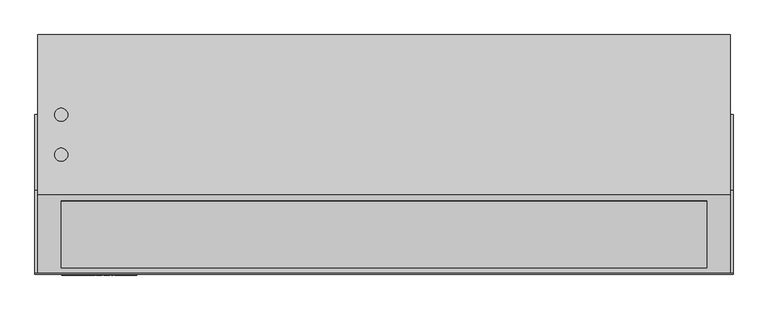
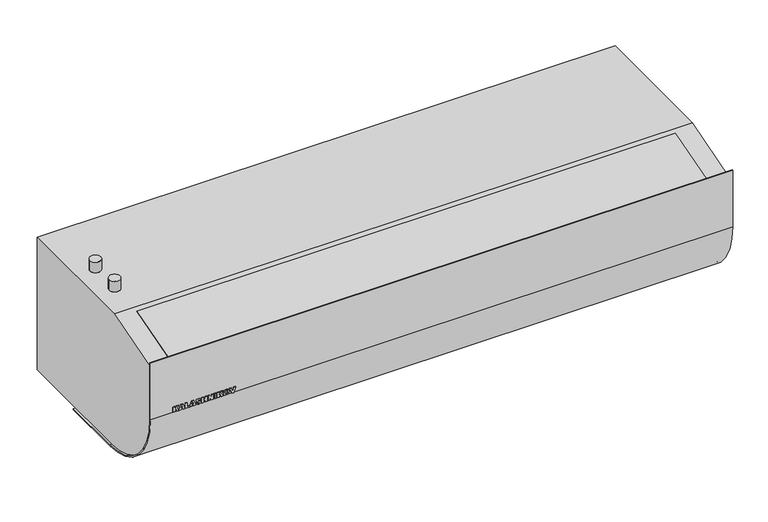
"""IFC4 building model written with IfcOpenShell, lengths in millimetres: proxy geometry, ADSK_Завеса_Водяная : KVC-C10W12-11."""

from ifc_helpers import new_model, si_unit, point, frame, frame_2d, origin, place, context, project, spatial, polyline, circle_curve, trimmed, segment, composite_curve, outline, extrude, source, transform, mapped, element, save
from ifc_brep_helpers import plane_surface, cylinder_surface, advanced_brep


def mechanical_equipment_7584899c(model_context):
    return source(origin(), model_context, "Body", "SolidModel", [
        extrude(outline(polyline([(139.0, -491.5196078), (129.0, -491.5196078), (129.0, -488.3823529), (130.7647059, -488.3823529), (132.7745098, -486.6115196), (129.0, -484.7794118), (129.0, -480.9313725), (135.2775735, -484.4056373), (139.0, -481.127451), (139.0, -485.3982843), (135.2224265, -488.3823529), (139.0, -488.3823529), (139.0, -491.5196078)])), frame((0.0, -367.0, 0.0), z_axis=(0.0, 1.0, 0.0), x_axis=(0.0, 0.0, 1.0)), (0.0, 0.0, 1.0), 1.0),
        extrude(outline(polyline([(130.5686275, -473.9338235), (129.0, -473.4803922), (129.0, -470.1470588), (139.0, -473.5202206), (139.0, -477.5582108), (129.0, -480.9313725), (129.0, -477.5980392), (130.5686275, -477.1660539), (130.5686275, -473.9338235)]), holes=[polyline([(132.9215686, -474.5281863), (132.9215686, -476.5165441), (136.4540441, -475.5392157), (132.9215686, -474.5281863)])]), frame((0.0, -367.0, 0.0), z_axis=(0.0, 1.0, 0.0), x_axis=(0.0, 0.0, 1.0)), (0.0, 0.0, 1.0), 1.0),
        extrude(outline(polyline([(139.0, -469.1666667), (129.0, -469.1666667), (129.0, -461.3235294), (131.3529412, -461.3235294), (131.3529412, -466.0294118), (139.0, -466.0294118), (139.0, -469.1666667)])), frame((0.0, -367.0, 0.0), z_axis=(0.0, 1.0, 0.0), x_axis=(0.0, 0.0, 1.0)), (0.0, 0.0, 1.0), 1.0),
        extrude(outline(polyline([(130.5686275, -453.9338235), (129.0, -453.4803922), (129.0, -450.1470588), (139.0, -453.5202206), (139.0, -457.5582108), (129.0, -460.9313725), (129.0, -457.5980392), (130.5686275, -457.1660539), (130.5686275, -453.9338235)]), holes=[polyline([(132.9215686, -454.5281863), (132.9215686, -456.5165441), (136.4540441, -455.5392157), (132.9215686, -454.5281863)])]), frame((0.0, -367.0, 0.0), z_axis=(0.0, 1.0, 0.0), x_axis=(0.0, 0.0, 1.0)), (0.0, 0.0, 1.0), 1.0),
        extrude(outline(polyline([(132.3394608, -449.754902), (129.8026961, -448.6488971), (128.8039216, -445.1378676), (129.2297794, -442.7420343), (130.4813113, -441.2637868), (132.28125, -440.7352941), (133.7870711, -441.1305147), (134.9129902, -442.3958333), (135.8106618, -445.2757353), (137.4313725, -445.4074755), (137.1050858, -444.6338848), (136.0588235, -444.2647059), (136.2395833, -441.127451), (138.4883578, -442.3054534), (139.1960784, -445.1807598), (138.8039216, -447.6011029), (137.7285539, -448.9231005), (136.276348, -449.3627451), (134.3492647, -448.4957108), (133.1237745, -445.6219363), (131.8186275, -443.872549), (131.0818015, -444.1865809), (130.7647059, -445.0796569), (131.3958333, -446.2775735), (132.5294118, -446.6176471), (132.3394608, -449.754902)])), frame((0.0, -367.0, 0.0), z_axis=(0.0, 1.0, 0.0), x_axis=(0.0, 0.0, 1.0)), (0.0, 0.0, 1.0), 1.0),
        extrude(outline(polyline([(139.0, -439.1666667), (129.0, -439.1666667), (129.0, -436.0294118), (133.1176471, -436.0294118), (133.1176471, -432.6960784), (129.0, -432.6960784), (129.0, -429.5588235), (139.0, -429.5588235), (139.0, -432.6960784), (135.4705882, -432.6960784), (135.4705882, -436.0294118), (139.0, -436.0294118), (139.0, -439.1666667)])), frame((0.0, -367.0, 0.0), z_axis=(0.0, 1.0, 0.0), x_axis=(0.0, 0.0, 1.0)), (0.0, 0.0, 1.0), 1.0),
        extrude(outline(polyline([(139.0, -427.5980392), (129.0, -427.5980392), (129.0, -424.6568627), (134.4901961, -424.6568627), (129.0, -420.9313725), (129.0, -417.9901961), (139.0, -417.9901961), (139.0, -420.9313725), (133.4730392, -420.9313725), (139.0, -424.6783088), (139.0, -427.5980392)])), frame((0.0, -367.0, 0.0), z_axis=(0.0, 1.0, 0.0), x_axis=(0.0, 0.0, 1.0)), (0.0, 0.0, 1.0), 1.0),
        extrude(outline(polyline([(-412.6960784, -367.0), (-415.8333333, -367.0), (-415.8333333, -366.0), (-412.6960784, -366.0), (-412.6960784, -367.0)])), frame((0.0, 0.0, 129.0), z_axis=(0.0, 0.0, 1.0), x_axis=(1.0, 0.0, 0.0)), (0.0, 0.0, 1.0), 10.0),
        extrude(outline(polyline([(139.0, -410.5392157), (129.0, -410.5392157), (129.0, -407.4019608), (130.7647059, -407.4019608), (132.7745098, -405.6311275), (129.0, -403.7990196), (129.0, -399.9509804), (135.2775735, -403.4252451), (139.0, -400.1470588), (139.0, -404.4178922), (135.2224265, -407.4019608), (139.0, -407.4019608), (139.0, -410.5392157)])), frame((0.0, -367.0, 0.0), z_axis=(0.0, 1.0, 0.0), x_axis=(0.0, 0.0, 1.0)), (0.0, 0.0, 1.0), 1.0),
        extrude(outline(polyline([(133.9938725, -399.3627451), (131.0603554, -398.671875), (129.346201, -396.8688725), (128.8039216, -394.0594363), (129.4304534, -391.2729779), (131.1859681, -389.5618873), (134.0765931, -388.9705882), (137.8495711, -390.3247549), (139.1960784, -394.185049), (137.8250613, -397.9947917), (133.9938725, -399.3627451)]), holes=[polyline([(133.9938725, -396.2254902), (136.1813725, -395.6678922), (136.8431373, -394.1911765), (136.1920956, -392.6685049), (134.1286765, -392.1078431), (131.8048407, -392.645527), (131.1568627, -394.1636029), (131.8186275, -395.6709559), (133.9938725, -396.2254902)])]), frame((0.0, -367.0, 0.0), z_axis=(0.0, 1.0, 0.0), x_axis=(0.0, 0.0, 1.0)), (0.0, 0.0, 1.0), 1.0),
        extrude(outline(polyline([(139.0, -388.1862745), (129.0, -384.4699755), (129.0, -381.1397059), (139.0, -377.4019608), (139.0, -380.7352941), (131.8033088, -382.7941176), (139.0, -384.8560049), (139.0, -388.1862745)])), frame((0.0, -367.0, 0.0), z_axis=(0.0, 1.0, 0.0), x_axis=(0.0, 0.0, 1.0)), (0.0, 0.0, 1.0), 1.0),
        extrude(outline(polyline([(-23.6666667, 10.0), (-23.6666667, 0.0), (-43.3333333, 10.0), (-43.3333333, 0.0), (-63.0, 10.0), (-63.0, 0.0), (-82.6666667, 10.0), (-82.6666667, 0.0), (-102.3333333, 10.0), (-102.3333333, 0.0), (-121.9166498, 10.5360909), (-4.0, 10.5360909), (-4.0, 0.0), (-23.6666667, 10.0)])), frame((-492.5, 0.0, 0.0), z_axis=(1.0, 0.0, 0.0), x_axis=(0.0, 1.0, 0.0)), (0.0, 0.0, 1.0), 985.0),
        advanced_brep(
        [(528.5, -244.0, 258.0), (528.5, -364.0, 223.0), (528.5, -364.0, 129.0), (528.5, -237.0, 2.0), (528.5, 0.0, 2.0), (528.5, 0.0, 258.0), (-528.5, -244.0, 258.0), (-528.5, 0.0, 258.0), (-528.5, 0.0, 2.0), (-528.5, -237.0, 2.0), (-528.5, -364.0, 129.0), (-528.5, -364.0, 223.0), (-482.5, -183.0, 258.0), (-502.5, -183.0, 258.0), (-482.5, -122.0, 258.0), (-502.5, -122.0, 258.0), (492.5, -4.0, 2.0), (-492.5, -4.0, 2.0), (-492.5, -122.0, 2.0), (492.5, -122.0, 2.0), (492.5, -4.0, 10.0), (492.5, -122.0, 10.0), (-492.5, -122.0, 10.0), (-492.5, -4.0, 10.0), (-502.5, -183.0, 278.0), (-482.5, -183.0, 278.0), (-502.5, -122.0, 278.0), (-482.5, -122.0, 278.0)],
        [
            (0, 1),
            (1, 2),
            (2, 3, circle_curve(frame((528.5, -237.0, 129.0), z_axis=(1.0, 0.0, 0.0), x_axis=(0.0, 1.0, 0.0)), 127.0)),
            (3, 4),
            (4, 5),
            (5, 0),
            (6, 7),
            (7, 8),
            (8, 9),
            (9, 10, circle_curve(frame((-528.5, -237.0, 129.0), z_axis=(-1.0, 0.0, 0.0), x_axis=(0.0, 1.0, 0.0)), 127.0)),
            (10, 11),
            (11, 6),
            (1, 11),
            (10, 2),
            (4, 8),
            (7, 5),
            (6, 0),
            (12, 13, circle_curve(frame((-492.5, -183.0, 258.0), z_axis=(0.0, 0.0, -1.0), x_axis=(1.0, 0.0, 0.0)), 10.0)),
            (13, 12, circle_curve(frame((-492.5, -183.0, 258.0), z_axis=(0.0, 0.0, -1.0), x_axis=(1.0, 0.0, 0.0)), 10.0)),
            (14, 15, circle_curve(frame((-492.5, -122.0, 258.0), z_axis=(0.0, 0.0, -1.0), x_axis=(1.0, 0.0, 0.0)), 10.0)),
            (15, 14, circle_curve(frame((-492.5, -122.0, 258.0), z_axis=(0.0, 0.0, -1.0), x_axis=(1.0, 0.0, 0.0)), 10.0)),
            (9, 3),
            (16, 17),
            (17, 18),
            (18, 19),
            (19, 16),
            (20, 21),
            (21, 22),
            (22, 23),
            (23, 20),
            (23, 17),
            (16, 20),
            (22, 18),
            (21, 19),
            (24, 25, circle_curve(frame((-492.5, -183.0, 278.0), z_axis=(0.0, 0.0, 1.0), x_axis=(1.0, 0.0, 0.0)), 10.0)),
            (25, 24, circle_curve(frame((-492.5, -183.0, 278.0), z_axis=(0.0, 0.0, 1.0), x_axis=(1.0, 0.0, 0.0)), 10.0)),
            (26, 27, circle_curve(frame((-492.5, -122.0, 278.0), z_axis=(0.0, 0.0, 1.0), x_axis=(1.0, 0.0, 0.0)), 10.0)),
            (27, 26, circle_curve(frame((-492.5, -122.0, 278.0), z_axis=(0.0, 0.0, 1.0), x_axis=(1.0, 0.0, 0.0)), 10.0)),
            (24, 13),
            (12, 25),
            (26, 15),
            (14, 27),
        ],
        [
            plane_surface(frame((528.5, -244.0, 258.0), z_axis=(1.0, 0.0, 0.0), x_axis=(0.0, -0.9600000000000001, -0.27999999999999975))),
            plane_surface(frame((-528.5, -244.0, 258.0), z_axis=(-1.0, 0.0, 0.0), x_axis=(0.0, 0.9600000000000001, 0.27999999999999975))),
            plane_surface(frame((528.5, -364.0, 223.0), z_axis=(0.0, -1.0, 0.0), x_axis=(-1.0, 0.0, 0.0))),
            plane_surface(frame((528.5, 0.0, 2.0), z_axis=(0.0, 1.0, 0.0), x_axis=(-1.0, 0.0, 0.0))),
            plane_surface(frame((528.5, 0.0, 258.0), z_axis=(0.0, 0.0, 1.0), x_axis=(-1.0, 0.0, 0.0))),
            cylinder_surface(frame((-528.5, -237.0, 129.0), z_axis=(1.0, 0.0, 0.0), x_axis=(0.0, 1.0, 0.0)), 127.0),
            plane_surface(frame((528.5, -237.0, 2.0), z_axis=(0.0, 0.0, -1.0), x_axis=(-1.0, 0.0, 0.0))),
            plane_surface(frame((528.5, -244.0, 258.0), z_axis=(0.0, -0.27999999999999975, 0.9600000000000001), x_axis=(-1.0, 0.0, 0.0))),
            plane_surface(frame((-492.5, -4.0, 10.0), z_axis=(0.0, 0.0, -1.0), x_axis=(-1.0, 0.0, 0.0))),
            plane_surface(frame((492.5, -4.0, 10.0), z_axis=(0.0, -1.0, 0.0), x_axis=(0.0, 0.0, -1.0))),
            plane_surface(frame((-492.5, -4.0, 10.0), z_axis=(1.0, 0.0, 0.0), x_axis=(0.0, 0.0, -1.0))),
            plane_surface(frame((-492.5, -122.0, 10.0), z_axis=(0.0, 1.0, 0.0), x_axis=(0.0, 0.0, -1.0))),
            plane_surface(frame((492.5, -122.0, 10.0), z_axis=(-1.0, 0.0, 0.0), x_axis=(0.0, 0.0, -1.0))),
            plane_surface(frame((-482.5, -183.0, 278.0), z_axis=(0.0, 0.0, 1.0), x_axis=(0.0, 1.0, 0.0))),
            cylinder_surface(frame((-492.5, -183.0, 258.0), z_axis=(0.0, 0.0, 1.0), x_axis=(1.0, 0.0, 0.0)), 10.0),
            cylinder_surface(frame((-492.5, -122.0, 0.0), z_axis=(0.0, 0.0, 1.0), x_axis=(1.0, 0.0, 0.0)), 10.0),
        ],
        [
            (0, [[1, 2, 3, 4, 5, 6]]),
            (1, [[7, 8, 9, 10, 11, 12]]),
            (2, [[-2, 13, -11, 14]]),
            (3, [[-5, 15, -8, 16]]),
            (4, [[-6, -16, -7, 17], [18, 19], [20, 21]]),
            (5, [[-3, -14, -10, 22]]),
            (6, [[-4, -22, -9, -15], [23, 24, 25, 26]]),
            (7, [[-1, -17, -12, -13]]),
            (8, [[27, 28, 29, 30]]),
            (9, [[-30, 31, -23, 32]]),
            (10, [[-29, 33, -24, -31]]),
            (11, [[-28, 34, -25, -33]]),
            (12, [[-27, -32, -26, -34]]),
            (13, [[35, 36]]),
            (13, [[37, 38]]),
            (14, [[-35, 39, -18, 40]]),
            (14, [[-36, -40, -19, -39]]),
            (15, [[-37, 41, -20, 42]]),
            (15, [[-38, -42, -21, -41]]),
        ],
    ),
        extrude(outline(polyline([(0.0, -106.3426612), (0.0, 0.0), (985.0, 0.0), (985.0, -106.3426612), (0.0, -106.3426612)])), frame((492.5, -355.390912, 224.7016158), z_axis=(0.0, -0.2799999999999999, 0.9600000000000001), x_axis=(-1.0, 0.0, 0.0)), (0.0, 0.0, 1.0), 1.553987),
        extrude(outline(composite_curve([segment(polyline([(-366.0, 238.0), (-364.0, 238.0), (-364.0, 129.0)]), True, "CONTINUOUS"), segment(trimmed(circle_curve(frame_2d((-237.0, 129.0)), 127.0), [point((-364.0, 129.0))], [point((-237.0, 2.0))], True, "CARTESIAN"), True, "CONTINUOUS"), segment(polyline([(-237.0, 2.0), (-122.0, 2.0), (-122.0, 0.0), (-237.0, 0.0)]), True, "CONTINUOUS"), segment(trimmed(circle_curve(frame_2d((-237.0, 129.0)), 129.0), [point((-237.0, 0.0))], [point((-366.0, 129.0))], False, "CARTESIAN"), True, "CONTINUOUS"), segment(polyline([(-366.0, 129.0), (-366.0, 238.0)]), True, "CONTINUOUS")], self_intersect=False)), frame((-532.5, 0.0, 0.0), z_axis=(1.0, 0.0, 0.0), x_axis=(0.0, 1.0, 0.0)), (0.0, 0.0, 1.0), 1065.0),
    ])


if __name__ == "__main__":
    model = new_model("IFC4")
    model_context = context("Model", 3, world=origin())
    ifc_project = project(units=[si_unit("LENGTHUNIT", "METRE", prefix="MILLI")], contexts=[model_context])
    site = spatial("IfcSite", under=ifc_project)
    building = spatial("IfcBuilding", under=site)
    placement = place(None, origin())
    mechanical_equipment_shape = mechanical_equipment_7584899c(model_context)
    element("IfcBuildingElementProxy", 1, Name="ADSK_Завеса_Водяная : KVC-C10W12-11", ObjectType="ADSK_Завеса_Водяная : KVC-C10W12-11", at=placement, inside=building, context=model_context, shape_type="MappedRepresentation", body=[
        mapped(mechanical_equipment_shape, transform((0.0, 0.0, 0.0), x_axis=(1.0, 0.0, 0.0), y_axis=(0.0, 1.0, 0.0), z_axis=(0.0, 0.0, 1.0))),
    ])
    save(model, "model.ifc")
